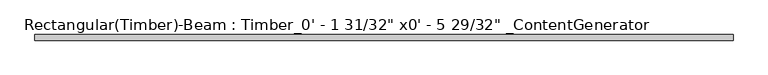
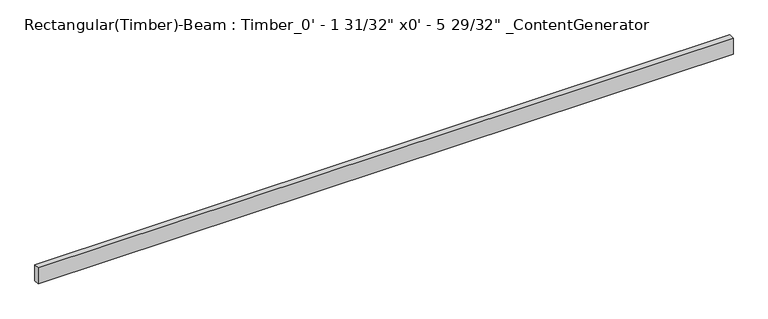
"""IFC4 building model written with IfcOpenShell, lengths in millimetres: beam geometry."""

import ifcopenshell
import ifcopenshell.guid

model = None  # the IFC model being written
_history = None  # IfcOwnerHistory: only IFC2X3 demands one
_inside = {}  # id of a spatial element -> (the spatial element, [elements in it])
_under = {}  # id of a project, library or spatial element -> (it, [spatial elements below it])
_declared = {}  # id of a project -> (the project, [libraries it declares])
_typed = {}  # id of a type object -> (the type object, [elements of that type])
_made_of = {}  # id of a material, layer set ... -> (it, [elements and type objects made of it])


def new_model(schema):
    """Start an empty IFC model of exactly this schema.

    Asked for "IFC4X3", IfcOpenShell would pick the latest addendum, in which some entities
    have other attributes; the version numbers below select the first issue.
    IFC2X3 requires an IfcOwnerHistory on every rooted entity: one is made here for all.
    """
    global model, _history
    if schema == "IFC4X3":
        model = ifcopenshell.file(schema_version=(4, 3, 0, 0))
    else:
        model = ifcopenshell.file(schema=schema)
    _inside.clear()
    _under.clear()
    _declared.clear()
    _typed.clear()
    _made_of.clear()
    _history = None
    if model.schema == "IFC2X3":
        org = make("IfcOrganization", Name="unknown")
        user = make(
            "IfcPersonAndOrganization",
            ThePerson=make("IfcPerson", FamilyName="unknown"),
            TheOrganization=org,
        )
        app = make(
            "IfcApplication",
            ApplicationDeveloper=org,
            Version="unknown",
            ApplicationFullName="unknown",
            ApplicationIdentifier="unknown",
        )
        _history = make(
            "IfcOwnerHistory",
            OwningUser=user,
            OwningApplication=app,
            ChangeAction="ADDED",
            CreationDate=0,
        )
    return model


def make(cls, **values):
    """One entity of the class cls with the attributes given. An attribute that is None is left unset."""
    return model.create_entity(
        cls, **{name: value for name, value in values.items() if value is not None}
    )


def rooted(cls, **values):
    """An entity with a GlobalId (a new one), such as an element, a storey or a relation."""
    return make(cls, GlobalId=ifcopenshell.guid.new(), OwnerHistory=_history, **values)


def si_unit(unit_type, name, prefix=None):
    """IfcSIUnit, for example si_unit("LENGTHUNIT", "METRE", prefix="MILLI")."""
    return make("IfcSIUnit", UnitType=unit_type, Prefix=prefix, Name=name)


def assignment(units):
    """IfcUnitAssignment: the units of a project."""
    return None if units is None else make("IfcUnitAssignment", Units=units)


def point(xyz):
    """IfcCartesianPoint."""
    return None if xyz is None else make("IfcCartesianPoint", Coordinates=xyz)


def direction(xyz):
    """IfcDirection."""
    return None if xyz is None else make("IfcDirection", DirectionRatios=xyz)


def frame(location, z_axis=None, x_axis=None):
    """IfcAxis2Placement3D, a coordinate frame: its origin and axes. An axis left out is left unset."""
    return make(
        "IfcAxis2Placement3D",
        Location=point(location),
        Axis=direction(z_axis),
        RefDirection=direction(x_axis),
    )


def origin():
    """The frame at (0, 0, 0) with its axes left unset."""
    return frame((0.0, 0.0, 0.0))


def place(relative_to, where):
    """IfcLocalPlacement: puts the frame where relative to a parent placement (None: the world)."""
    return make(
        "IfcLocalPlacement", PlacementRelTo=relative_to, RelativePlacement=where
    )


def context(
    kind, dimensions, precision=None, world=None, true_north=None, identifier=None
):
    """IfcGeometricRepresentationContext, for example the 3D "Model" context."""
    return make(
        "IfcGeometricRepresentationContext",
        ContextIdentifier=identifier,
        ContextType=kind,
        CoordinateSpaceDimension=dimensions,
        Precision=precision,
        WorldCoordinateSystem=world,
        TrueNorth=true_north,
    )


def project(units=None, contexts=None):
    """IfcProject with its units and contexts."""
    return rooted(
        "IfcProject",
        Name="project",
        RepresentationContexts=contexts,
        UnitsInContext=assignment(units),
    )


def spatial(cls, under=None, at=None, **own):
    """A site, building, storey or space (cls), placed at a placement, below another one or the project."""
    s = rooted(cls, ObjectPlacement=at, **own)
    if under is not None:
        _under.setdefault(under.id(), (under, []))[1].append(s)
    return s


def polyline(points):
    """IfcPolyline through the points."""
    return make("IfcPolyline", Points=[point(p) for p in points])


def outline(outer, holes=None, kind="AREA"):
    """IfcArbitraryClosedProfileDef: a profile drawn as a closed curve; with holes, ...WithVoids."""
    if holes is None:
        return make("IfcArbitraryClosedProfileDef", ProfileType=kind, OuterCurve=outer)
    return make(
        "IfcArbitraryProfileDefWithVoids",
        ProfileType=kind,
        OuterCurve=outer,
        InnerCurves=holes,
    )


def extrude(swept, where, along, depth):
    """IfcExtrudedAreaSolid: the profile swept, set in the frame where, extruded along a direction by depth."""
    return make(
        "IfcExtrudedAreaSolid",
        SweptArea=swept,
        Position=where,
        ExtrudedDirection=direction(along),
        Depth=depth,
    )


def shape(context_of_items, identifier, shape_type, items):
    """IfcShapeRepresentation: the items that make up one representation, for example the "Body"."""
    return make(
        "IfcShapeRepresentation",
        ContextOfItems=context_of_items,
        RepresentationIdentifier=identifier,
        RepresentationType=shape_type,
        Items=items,
    )


def source(mapping_origin, context_of_items, identifier, shape_type, items):
    """IfcRepresentationMap: a shape defined once, which mapped items show again and again."""
    return make(
        "IfcRepresentationMap",
        MappingOrigin=mapping_origin,
        MappedRepresentation=shape(context_of_items, identifier, shape_type, items),
    )


def transform(
    local_origin,
    x_axis=None,
    y_axis=None,
    z_axis=None,
    scale=None,
    scale2=None,
    scale3=None,
    uniform=True,
):
    """IfcCartesianTransformationOperator3D, or its non-uniform kind. x_axis, y_axis, z_axis: its Axis1, 2, 3."""
    if uniform:
        return make(
            "IfcCartesianTransformationOperator3D",
            Axis1=direction(x_axis),
            Axis2=direction(y_axis),
            LocalOrigin=point(local_origin),
            Scale=scale,
            Axis3=direction(z_axis),
        )
    return make(
        "IfcCartesianTransformationOperator3DnonUniform",
        Axis1=direction(x_axis),
        Axis2=direction(y_axis),
        LocalOrigin=point(local_origin),
        Scale=scale,
        Axis3=direction(z_axis),
        Scale2=scale2,
        Scale3=scale3,
    )


def mapped(mapping_source, mapping_target):
    """IfcMappedItem: shows the shape of a source again, moved by a transform."""
    return make(
        "IfcMappedItem", MappingSource=mapping_source, MappingTarget=mapping_target
    )


def made_of(thing, what):
    """Note that an element or type object is made of a material, layer set ...; save() writes the relation."""
    if what is not None:
        _made_of.setdefault(what.id(), (what, []))[1].append(thing)
    return thing


def element(
    cls,
    number,
    at=None,
    inside=None,
    cuts=None,
    type_object=None,
    material=None,
    context=None,
    identifier="Body",
    shape_type=None,
    held_by="IfcProductDefinitionShape",
    body=None,
    shapes=None,
    **own,
):
    """One element of the class cls, such as IfcWall. Its Tag is "e" and its number.

    at: its placement. inside: the storey or other place that contains it. cuts: it is an
    opening in that element (IfcRelVoidsElement). A single representation is given by context,
    identifier, shape_type and body (its items); several are given by shapes. held_by: the class
    of the entity that holds the representations. save() writes the other relations.
    """
    e = rooted(cls, Tag="e%d" % number, ObjectPlacement=at, **own)
    if body is not None:
        shapes = [shape(context, identifier, shape_type, body)]
    if shapes is not None:
        e.Representation = make(held_by, Representations=shapes)
    if inside is not None:
        _inside.setdefault(inside.id(), (inside, []))[1].append(e)
    if cuts is not None:
        rooted(
            "IfcRelVoidsElement", RelatingBuildingElement=cuts, RelatedOpeningElement=e
        )
    if type_object is not None:
        _typed.setdefault(type_object.id(), (type_object, []))[1].append(e)
    return made_of(e, material)


def aggregate(whole, parts):
    """IfcRelAggregates: a whole, such as a stair, and the parts it consists of."""
    return rooted("IfcRelAggregates", RelatingObject=whole, RelatedObjects=parts)


def save(model, path):
    """Write the relations noted so far, then the file.

    IfcRelAggregates (storeys below a building ...), IfcRelContainedInSpatialStructure (elements
    in a storey), IfcRelDefinesByType, IfcRelAssociatesMaterial and IfcRelDeclares: one each for
    every whole, place, type object, material and project.
    """
    for whole, parts in _under.values():
        aggregate(whole, parts)
    for where, things in _inside.values():
        rooted(
            "IfcRelContainedInSpatialStructure",
            RelatedElements=things,
            RelatingStructure=where,
        )
    for kind, things in _typed.values():
        rooted("IfcRelDefinesByType", RelatedObjects=things, RelatingType=kind)
    for what, things in _made_of.values():
        rooted("IfcRelAssociatesMaterial", RelatedObjects=things, RelatingMaterial=what)
    for by, libraries in _declared.values():
        rooted("IfcRelDeclares", RelatingContext=by, RelatedDefinitions=libraries)
    model.write(path)


def beam_095611d5(model_context):
    return source(origin(), model_context, "Body", "SweptSolid", [
        extrude(outline(polyline([(3124.2, -25.4), (-3124.2, -25.4), (-3124.2, 25.4), (3124.2, 25.4), (3124.2, -25.4)])), frame((0.0, 0.0, -76.2), z_axis=(0.0, 0.0, 1.0), x_axis=(1.0, 0.0, 0.0)), (0.0, 0.0, 1.0), 152.4),
    ])


if __name__ == "__main__":
    model = new_model("IFC4")
    model_context = context("Model", 3, world=origin())
    ifc_project = project(units=[si_unit("LENGTHUNIT", "METRE", prefix="MILLI")], contexts=[model_context])
    site = spatial("IfcSite", under=ifc_project)
    building = spatial("IfcBuilding", under=site)
    placement = place(None, origin())
    beam_shape = beam_095611d5(model_context)
    element("IfcBeam", 1, ObjectType="Rectangular(Timber)-Beam : Timber_0' - 1 31/32\" x0' - 5 29/32\" _ContentGenerator", at=placement, inside=building, context=model_context, shape_type="MappedRepresentation", body=[
        mapped(beam_shape, transform((0.0, 0.0, 0.0), x_axis=(1.0, 0.0, 0.0), y_axis=(0.0, 1.0, 0.0), z_axis=(0.0, 0.0, 1.0))),
    ])
    save(model, "model.ifc")
